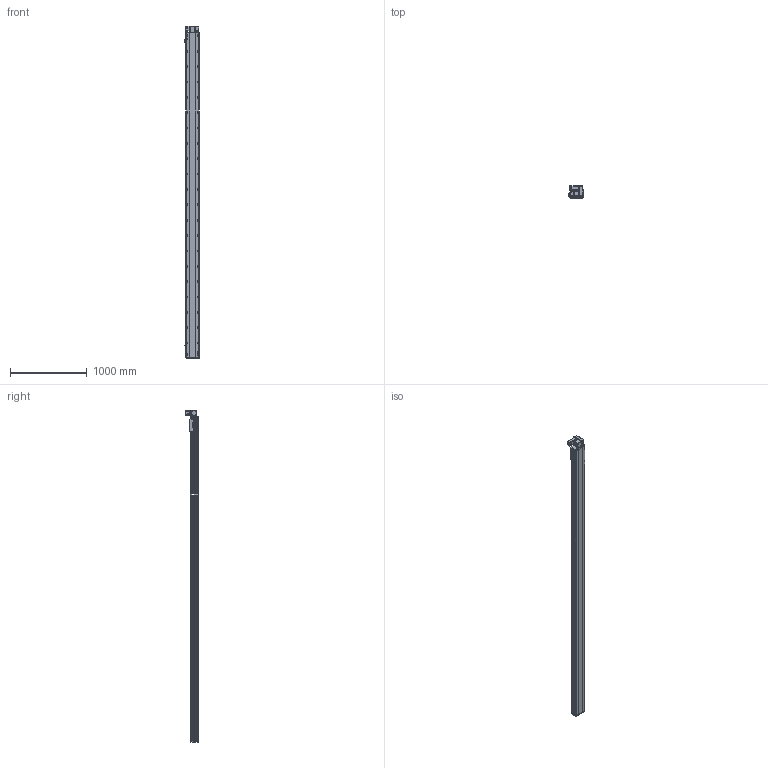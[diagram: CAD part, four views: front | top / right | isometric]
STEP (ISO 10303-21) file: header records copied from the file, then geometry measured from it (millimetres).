
FILE_DESCRIPTION (( 'STEP AP214' ), '1' );
FILE_NAME ('RTB17S-XX-3950-RW-M40-C4.STEP', '2025-12-11T09:24:51', ( '' ), ( '' ), 'SwSTEP 2.0', 'SolidWorks 2018', '' );
FILE_SCHEMA (( 'AUTOMOTIVE_DESIGN' ));
Length unit declared in the file: millimetre
Products named in the file (14): RTB17S-L-007奻裔^RTB17S-XX-XX-RW-M40-C4; RTB14-L-017P^RTB17S-RW-々湍釱蚾饜-400W_RTB17S-XX-XX-RW-M40-C4; RTB14-L-005P--轴承塑胶压盖^RTB17S-RW-皮带座装配-400W_RTB17S-XX-XX-RW-M40-C4; RTB14-L-018P^RTB17S-RW-々湍釱蚾饜-400W_RTB17S-XX-XX-RW-M40-C4; RTB17-R-011菁釱^RTB17S-XX-XX-RW-M40-C4; 400W侜督萇儂^RTB17S-XX-XX-RW-M40-C4; RTB17S-RW-々湍釱蚾饜-400W^RTB17S-XX-XX-RW-M40-C4; RTH13-BL-012覜茼え俋离^RTB17S-XX-XX-RW-M40-C4; RTB17S-XX-3950-RW-M40-C4; RTB17S-L-004佪裝蹟譫蟀諉釱^RTB17S-XX-XX-RW-M40-C4; RTB17S-L-001耜醱啣^RTB17S-XX-XX-RW-M40-C4; OMRON EE-SX672 传感器^RTB17S-XX-XX-RW-M40-C4; RMP17S-L-014-T20--々湍釱^RTB17S-RW-々湍釱蚾饜-400W_RTB17S-XX-XX-RW-M40-C4; RTB14-L-008-M20--萇儂啣^RTB17S-RW-々湍釱蚾饜-400W_RTB17S-XX-XX-RW-M40-C4
Assembly tree (16 placements, depth 3):
  RTB17S-XX-3950-RW-M40-C4
    RTB17-R-011菁釱^RTB17S-XX-XX-RW-M40-C4
    RTB17S-L-007奻裔^RTB17S-XX-XX-RW-M40-C4
    OMRON EE-SX672 传感器^RTB17S-XX-XX-RW-M40-C4  x3
    RTB17S-L-001耜醱啣^RTB17S-XX-XX-RW-M40-C4
    400W侜督萇儂^RTB17S-XX-XX-RW-M40-C4
    RTB17S-L-004佪裝蹟譫蟀諉釱^RTB17S-XX-XX-RW-M40-C4
    RTH13-BL-012覜茼え俋离^RTB17S-XX-XX-RW-M40-C4
    RTB17S-RW-々湍釱蚾饜-400W^RTB17S-XX-XX-RW-M40-C4
      RMP17S-L-014-T20--々湍釱^RTB17S-RW-々湍釱蚾饜-400W_RTB17S-XX-XX-RW-M40-C4
      RTB14-L-005P--轴承塑胶压盖^RTB17S-RW-皮带座装配-400W_RTB17S-XX-XX-RW-M40-C4
      RTB14-L-008-M20--萇儂啣^RTB17S-RW-々湍釱蚾饜-400W_RTB17S-XX-XX-RW-M40-C4
      RTB14-L-017P^RTB17S-RW-々湍釱蚾饜-400W_RTB17S-XX-XX-RW-M40-C4  x2
      RTB14-L-018P^RTB17S-RW-々湍釱蚾饜-400W_RTB17S-XX-XX-RW-M40-C4
Bounding box: 183.5 x 160.5 x 4322.5 mm (x, y, z)
Volume: 36431333.9 mm3; surface area: 4121474.4 mm2
Topology: 15 solids, 15 shells, 2445 faces, 6897 edges, 4509 vertices
Faces by surface type: plane 1098, cylinder 899, bspline 301, cone 139, torus 8
Entity records: 74153 total; most frequent: CARTESIAN_POINT 21302, ORIENTED_EDGE 10638, DIRECTION 9746, EDGE_CURVE 5319, VERTEX_POINT 3497, AXIS2_PLACEMENT_3D 3427, LINE 2892, VECTOR 2892
